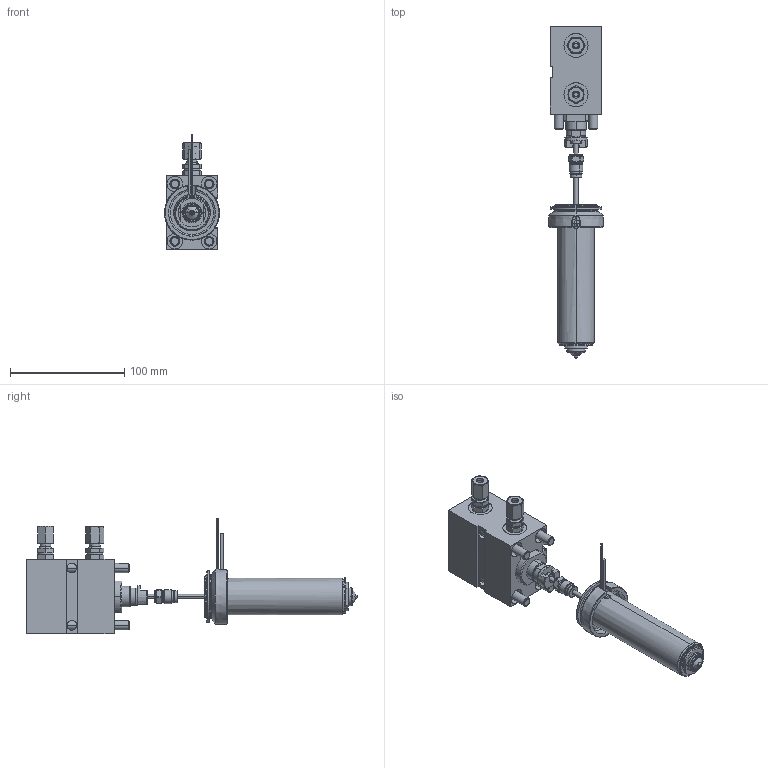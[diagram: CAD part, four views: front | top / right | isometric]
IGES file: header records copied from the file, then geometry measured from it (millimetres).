
Start section: Write IGES format                                    datakit 2008 (c)
Global section: file name: Unknown; native system: DATAKIT Converter; preprocessor: Unknown; author: Unknown; organization: Unknown; date: 950613.180003; units: millimetre
Bounding box: 47.9 x 290 x 101.12 mm (x, y, z)
Surface area: 133234.3 mm2 (no closed solid volume)
Topology: 0 solids, 0 shells, 744 faces, 3354 edges, 3340 vertices
Faces by surface type: revolution 468, bspline 276
